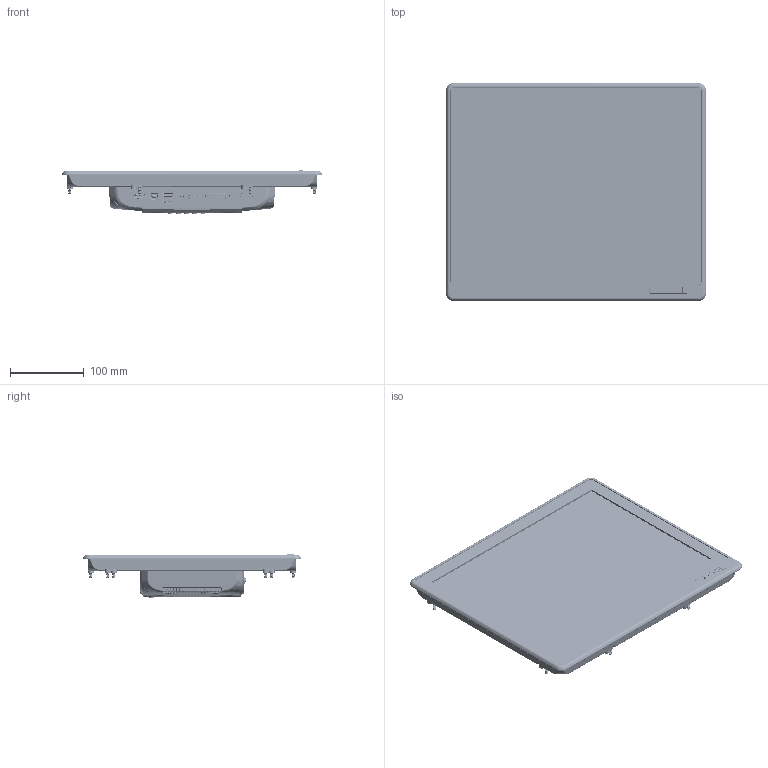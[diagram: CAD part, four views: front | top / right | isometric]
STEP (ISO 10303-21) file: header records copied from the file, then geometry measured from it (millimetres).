
FILE_DESCRIPTION (( 'STEP AP214' ), '1' );
FILE_NAME ('IDD22150.STEP', '2024-05-10T03:06:33', ( '' ), ( '' ), 'SwSTEP 2.0', 'SolidWorks 2018', '' );
FILE_SCHEMA (( 'AUTOMOTIVE_DESIGN' ));
Length unit declared in the file: millimetre
Products named in the file (1): IDD22150
Bounding box: 352.76 x 295.76 x 59.1 mm (x, y, z)
Volume: 1298899.1 mm3; surface area: 732032.5 mm2
Topology: 126 solids, 126 shells, 11206 faces, 28516 edges, 17450 vertices
Faces by surface type: plane 4885, cylinder 3280, bspline 1921, torus 697, sphere 235, cone 188
Full cylindrical faces by diameter (mm): 1.2 x2, 2.2 x12, 3.2 x12, 3.5 x2, 4 x1, 4.5 x8, 6 x12
Entity records: 539899 total; most frequent: CARTESIAN_POINT 161369, ORIENTED_EDGE 56090, DIRECTION 48421, EDGE_CURVE 28045, VERTEX_POINT 17435, AXIS2_PLACEMENT_3D 16301, VECTOR 15819, LINE 15819
